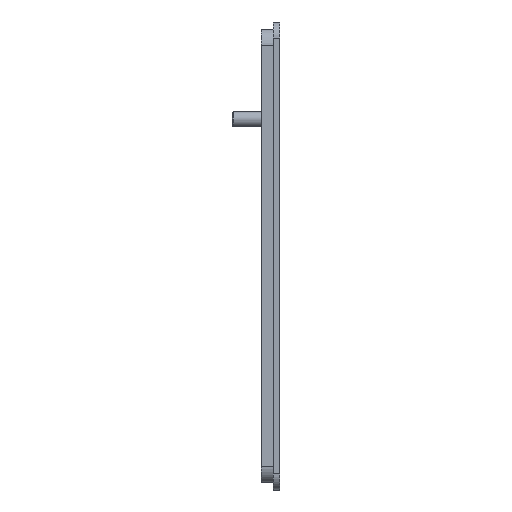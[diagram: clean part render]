
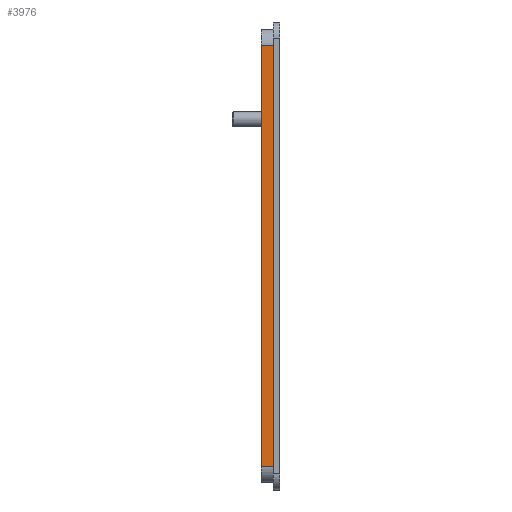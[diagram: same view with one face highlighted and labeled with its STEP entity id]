
A CAD part, left-side view. The second image highlights one B-rep face of the part: STEP entity #3976.
In plain terms, the highlighted planar face has unit normal (-1, 0, 0) as drawn and (1, 0, 0) by its records, which use the part's own axes.
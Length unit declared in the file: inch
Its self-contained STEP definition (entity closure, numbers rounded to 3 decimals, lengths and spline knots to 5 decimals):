
#173 = EDGE_CURVE ( 'NONE', #1541, #1590, #723, .T. ) ;
#174 = EDGE_CURVE ( 'NONE', #1590, #1511, #718, .T. ) ;
#177 = EDGE_CURVE ( 'NONE', #1541, #1624, #728, .T. ) ;
#178 = EDGE_CURVE ( 'NONE', #1624, #1511, #732, .T. ) ;
#306 = ORIENTED_EDGE ( 'NONE', *, *, #178, .F. ) ;
#307 = ORIENTED_EDGE ( 'NONE', *, *, #177, .F. ) ;
#308 = ORIENTED_EDGE ( 'NONE', *, *, #173, .T. ) ;
#309 = ORIENTED_EDGE ( 'NONE', *, *, #174, .T. ) ;
#718 = LINE ( 'NONE', #2593, #725 ) ;
#719 = VECTOR ( 'NONE', #2595, 39.37008 ) ;
#723 = LINE ( 'NONE', #2700, #719 ) ;
#725 = VECTOR ( 'NONE', #3069, 39.37008 ) ;
#728 = LINE ( 'NONE', #2596, #730 ) ;
#730 = VECTOR ( 'NONE', #2979, 39.37008 ) ;
#732 = LINE ( 'NONE', #2982, #733 ) ;
#733 = VECTOR ( 'NONE', #2984, 39.37008 ) ;
#1019 = AXIS2_PLACEMENT_3D ( 'NONE', #2966, #2958, #2957 ) ;
#1511 = VERTEX_POINT ( 'NONE', #3348 ) ;
#1541 = VERTEX_POINT ( 'NONE', #3264 ) ;
#1590 = VERTEX_POINT ( 'NONE', #2992 ) ;
#1624 = VERTEX_POINT ( 'NONE', #2770 ) ;
#1858 = FACE_OUTER_BOUND ( 'NONE', #3788, .T. ) ;
#2593 = CARTESIAN_POINT ( 'NONE',  ( 22.75, 6.75, -0.187 ) ) ;
#2595 = DIRECTION ( 'NONE',  ( 0., 1., 0. ) ) ;
#2596 = CARTESIAN_POINT ( 'NONE',  ( 22.75, 0.25, -0.187 ) ) ;
#2700 = CARTESIAN_POINT ( 'NONE',  ( 22.75, 0.25, -0.187 ) ) ;
#2770 = CARTESIAN_POINT ( 'NONE',  ( 22.75, 0.25, 0. ) ) ;
#2957 = DIRECTION ( 'NONE',  ( 0., 0., -1. ) ) ;
#2958 = DIRECTION ( 'NONE',  ( 1., 0., 0. ) ) ;
#2962 = PLANE ( 'NONE',  #1019 ) ;
#2966 = CARTESIAN_POINT ( 'NONE',  ( 22.75, 0.25, -0.187 ) ) ;
#2979 = DIRECTION ( 'NONE',  ( 0., 0., 1. ) ) ;
#2982 = CARTESIAN_POINT ( 'NONE',  ( 22.75, 0.25, 0. ) ) ;
#2984 = DIRECTION ( 'NONE',  ( 0., 1., 0. ) ) ;
#2992 = CARTESIAN_POINT ( 'NONE',  ( 22.75, 6.75, -0.187 ) ) ;
#3069 = DIRECTION ( 'NONE',  ( 0., 0., 1. ) ) ;
#3264 = CARTESIAN_POINT ( 'NONE',  ( 22.75, 0.25, -0.187 ) ) ;
#3348 = CARTESIAN_POINT ( 'NONE',  ( 22.75, 6.75, 0. ) ) ;
#3788 = EDGE_LOOP ( 'NONE', ( #306, #307, #308, #309 ) ) ;
#3976 = ADVANCED_FACE ( 'NONE', ( #1858 ), #2962, .T. ) ;
